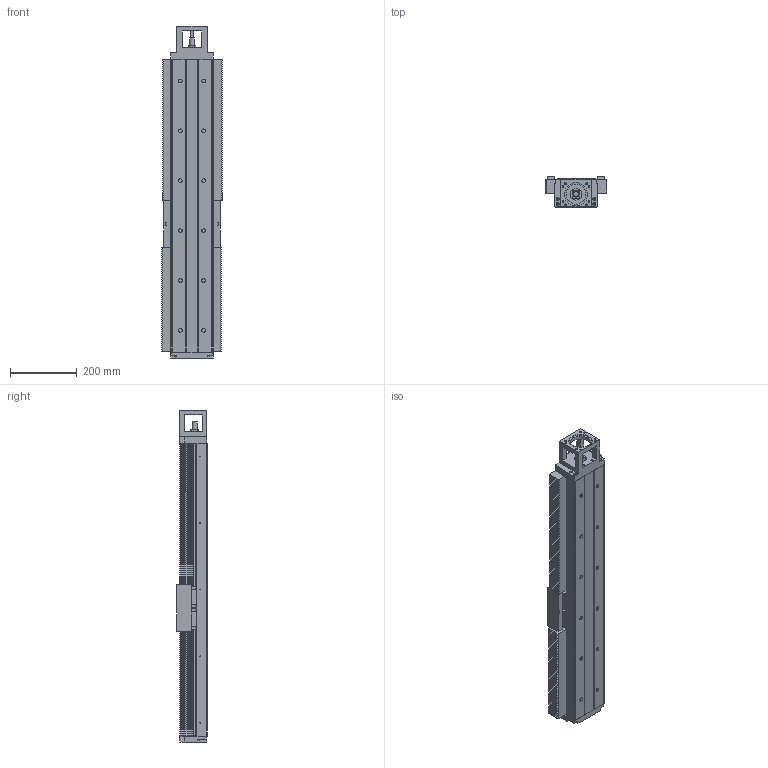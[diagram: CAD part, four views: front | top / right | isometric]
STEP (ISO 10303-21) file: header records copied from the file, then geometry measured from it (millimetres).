
FILE_DESCRIPTION(/* description */ (''),/* implementation_level */ '2;1');
FILE_NAME(/* name */ 'TKK130-880A1F0B.stp',/* time_stamp */ '2017-01-22T15:57:47+08:00',/* author */ (''),/* organization */ (''),/* preprocessor_version */ 'ST-DEVELOPER v15',/* originating_system */ 'SIEMENS PLM Software NX 8.5',/* authorisation */ '');
FILE_SCHEMA (('AUTOMOTIVE_DESIGN { 1 0 10303 214 3 1 1 1 }'));
Length unit declared in the file: millimetre
Products named in the file (3): 022; 011; TKK130-880A1F0B
Assembly tree (2 placements, depth 2):
  TKK130-880A1F0B
    011
    022
Bounding box: 184 x 92 x 998 mm (x, y, z)
Volume: 9790692.3 mm3; surface area: 1210758.5 mm2
Topology: 5 solids, 15 shells, 2105 faces, 5248 edges, 3226 vertices
Faces by surface type: plane 1694, cylinder 280, cone 91, extrusion 33, bspline 6, torus 1
Full cylindrical faces by diameter (mm): 2.1 x10, 2.5 x8, 3.3 x26, 4.5 x20, 5 x23, 6.6 x10, 6.8 x12, 7 x2, 8 x16, 8.5 x4, 9 x8, 11 x20, 12 x4, 15 x1, 16.3 x1, 17 x14, 17.5 x4, 25 x1, 35 x2, 40 x3, 60.03 x1, 70.03 x1
Entity records: 60268 total; most frequent: CARTESIAN_POINT 11743, ORIENTED_EDGE 9514, DIRECTION 9374, EDGE_CURVE 4757, VECTOR 3976, LINE 3943, VERTEX_POINT 3084, AXIS2_PLACEMENT_3D 2699
